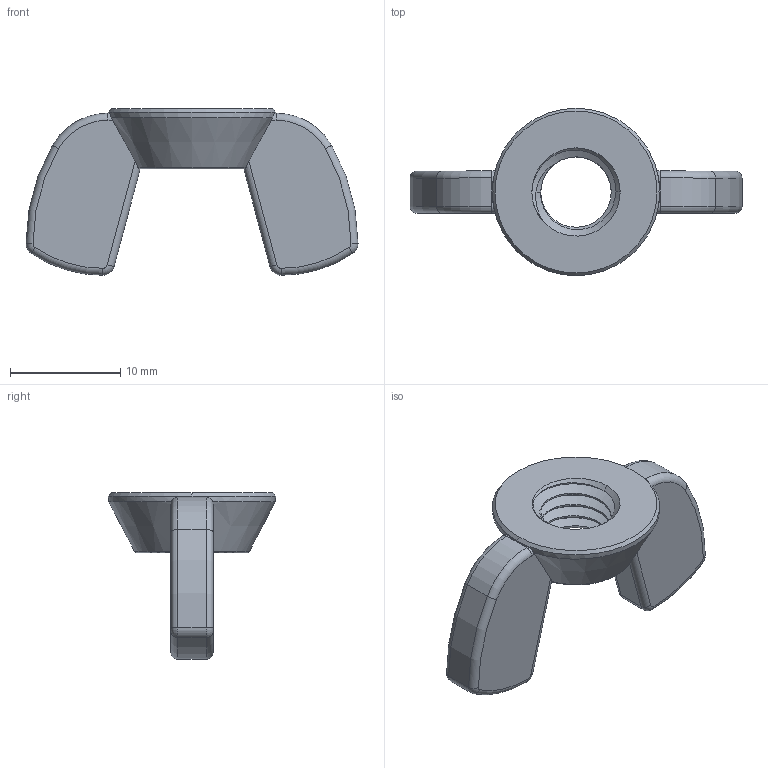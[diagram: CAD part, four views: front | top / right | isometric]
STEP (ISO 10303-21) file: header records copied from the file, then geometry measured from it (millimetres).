
FILE_DESCRIPTION (( 'STEP AP203' ), '1' );
FILE_NAME ('WING NUT M8 x 1.25mm Thread.STEP', '2017-05-02T01:02:13', ( '' ), ( '' ), 'SwSTEP 2.0', 'SolidWorks 2014', '' );
FILE_SCHEMA (( 'CONFIG_CONTROL_DESIGN' ));
Length unit declared in the file: millimetre
Products named in the file (1): WING NUT M8 x 1.25mm Thread
Bounding box: 30.1 x 15.2 x 15.1 mm (x, y, z)
Volume: 1321.3 mm3; surface area: 1226.6 mm2
Topology: 1 solids, 1 shells, 81 faces, 208 edges, 129 vertices
Faces by surface type: cylinder 35, torus 22, cone 12, plane 10, bspline 2
Entity records: 3104 total; most frequent: CARTESIAN_POINT 1166, ORIENTED_EDGE 416, DIRECTION 387, EDGE_CURVE 208, AXIS2_PLACEMENT_3D 167, VERTEX_POINT 129, CIRCLE 87, EDGE_LOOP 83
